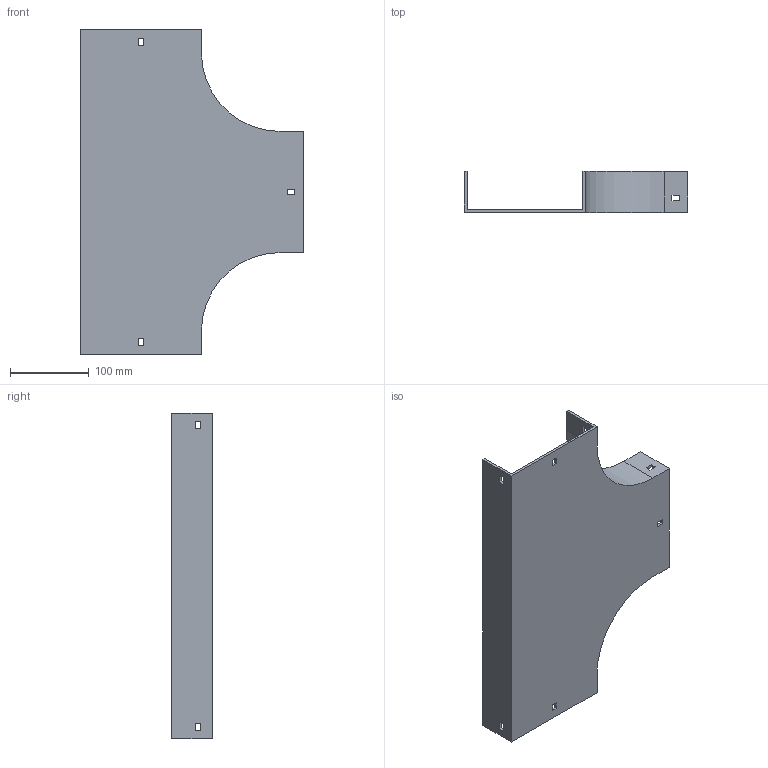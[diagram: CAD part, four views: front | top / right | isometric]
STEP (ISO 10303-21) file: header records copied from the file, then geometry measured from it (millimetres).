
FILE_DESCRIPTION (( 'STEP AP214' ), '1' );
FILE_NAME ('15F1B150.step', '2025-02-21T13:04:11', ( '' ), ( '' ), 'SwSTEP 2.0', 'SolidWorks 2023', '' );
FILE_SCHEMA (( 'AUTOMOTIVE_DESIGN' ));
Length unit declared in the file: millimetre
Products named in the file (1): 15F1B150
Bounding box: 284 x 52 x 414 mm (x, y, z)
Volume: 451062.2 mm3; surface area: 264393.4 mm2
Topology: 1 solids, 1 shells, 58 faces, 168 edges, 112 vertices
Faces by surface type: plane 54, cylinder 4
Entity records: 1939 total; most frequent: CARTESIAN_POINT 339, ORIENTED_EDGE 336, DIRECTION 294, EDGE_CURVE 168, LINE 160, VECTOR 160, VERTEX_POINT 112, EDGE_LOOP 76
